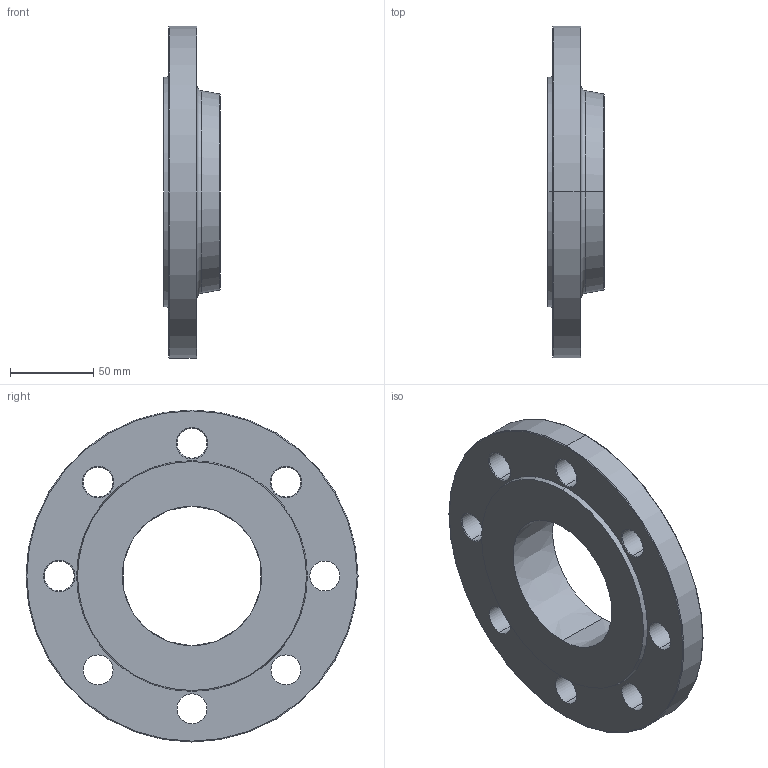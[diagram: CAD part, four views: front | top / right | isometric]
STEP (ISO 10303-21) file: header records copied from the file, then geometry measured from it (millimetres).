
FILE_DESCRIPTION (( 'STEP AP203' ), '1' );
FILE_NAME ('KP_W6-90.step', '2011-08-08T11:59:41', ( '' ), ( '' ), 'SwSTEP 2.0', 'SolidWorks 2011', '' );
FILE_SCHEMA (( 'CONFIG_CONTROL_DESIGN' ));
Length unit declared in the file: millimetre
Products named in the file (1): KP_W6-90
Bounding box: 34 x 200 x 200 mm (x, y, z)
Volume: 513993.3 mm3; surface area: 79742.3 mm2
Topology: 1 solids, 1 shells, 52 faces, 120 edges, 72 vertices
Faces by surface type: torus 24, cylinder 18, cone 6, plane 4
Entity records: 1621 total; most frequent: DIRECTION 322, CARTESIAN_POINT 245, ORIENTED_EDGE 240, AXIS2_PLACEMENT_3D 149, EDGE_CURVE 120, CIRCLE 96, EDGE_LOOP 72, VERTEX_POINT 72
